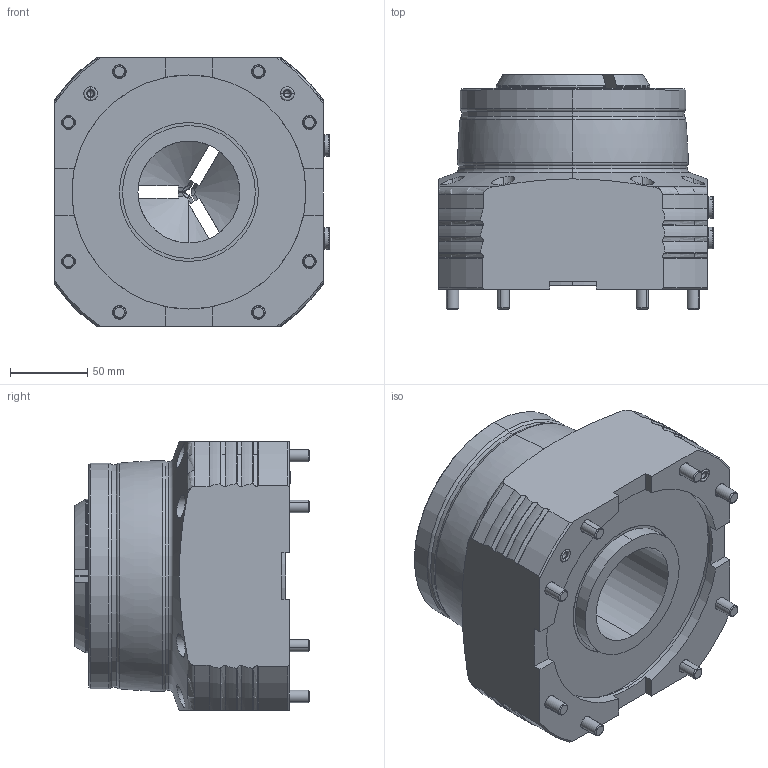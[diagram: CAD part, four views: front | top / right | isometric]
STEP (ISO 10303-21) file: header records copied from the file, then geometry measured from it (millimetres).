
FILE_DESCRIPTION (( 'STEP AP203' ), '1' );
FILE_NAME ('HYDROK_RD_Gr65_1121_0001.STEP', '2011-10-26T05:58:30', ( ' ' ), ( '' ), 'SwSTEP 2.0', 'SolidWorks 2010', '' );
FILE_SCHEMA (( 'CONFIG_CONTROL_DESIGN' ));
Length unit declared in the file: millimetre
Products named in the file (1): HYDROK_RD_Gr65_1121_0001
Bounding box: 178 x 151.85 x 174 mm (x, y, z)
Volume: 2578002.7 mm3; surface area: 247193.5 mm2
Topology: 19 solids, 19 shells, 681 faces, 1634 edges, 992 vertices
Faces by surface type: plane 248, cylinder 171, torus 126, cone 120, bspline 16
Entity records: 22945 total; most frequent: CARTESIAN_POINT 7438, DIRECTION 3249, ORIENTED_EDGE 3176, EDGE_CURVE 1588, AXIS2_PLACEMENT_3D 1294, VERTEX_POINT 992, EDGE_LOOP 754, ADVANCED_FACE 681
